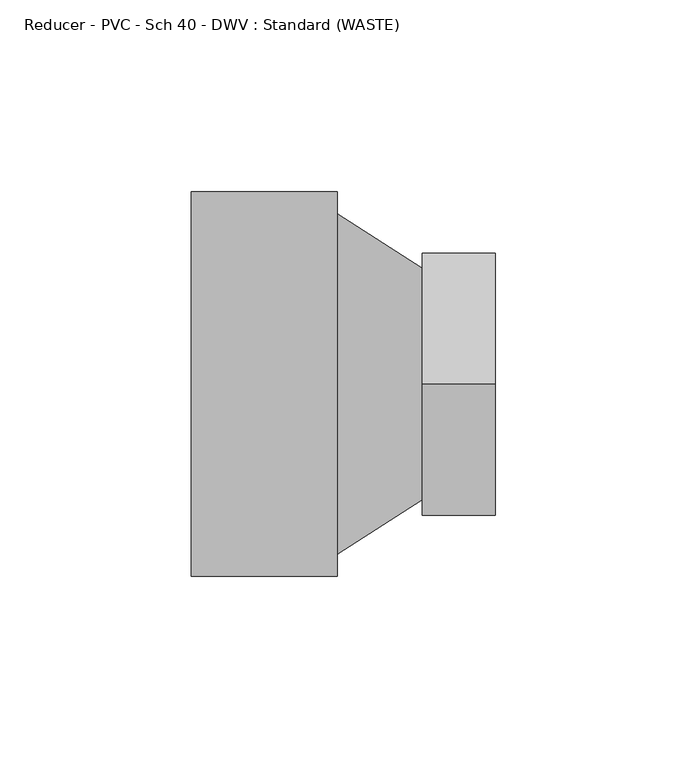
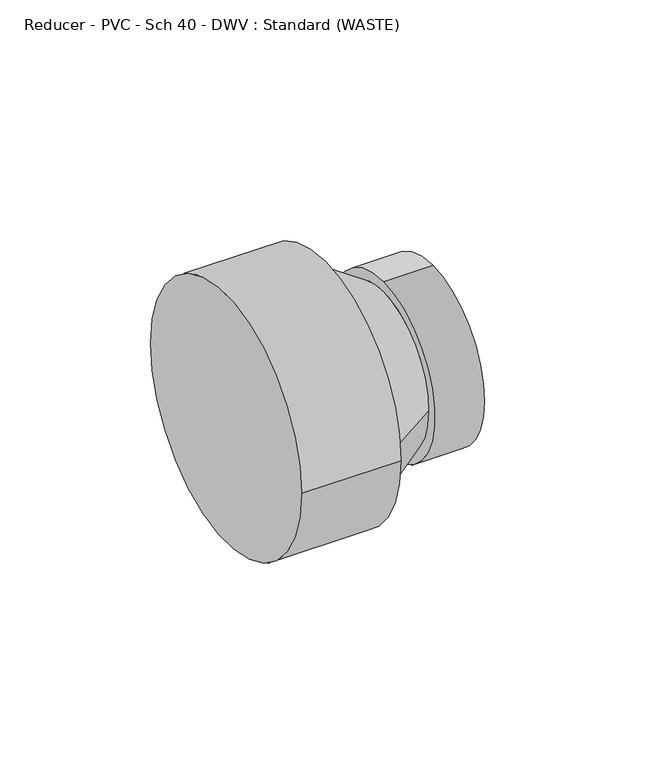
"""IFC4 building model written with IfcOpenShell, lengths in millimetres: pipe fitting geometry, Reducer - PVC - Sch 40 - DWV : Standard (WASTE)."""

from ifc_helpers import new_model, si_unit, frame, origin, place, context, project, spatial, polyline, circle_curve, source, transform, mapped, element, save
from ifc_brep_helpers import plane_surface, cylinder_surface, revolved_surface, advanced_brep


def reducer_pvc_sch_40_dwv_standard_waste_f6fd5085(model_context):
    return source(origin(), model_context, "Body", "AdvancedBrep", [
        advanced_brep(
        [(0.0, -50.2666, 0.0), (0.0, 50.2666, 0.0), (38.1, -50.2666, 0.0), (38.1, 50.2666, 0.0), (38.1, 44.45, 0.0), (38.1, -44.45, 0.0), (60.325, 30.1625, 0.0), (60.325, -30.1625, 0.0), (60.325, 0.0, 34.3154), (60.325, 0.0, -34.3154), (79.375, 0.0, 34.3154), (79.375, 0.0, -34.3154)],
        [
            (0, 1, circle_curve(frame((0.0, 0.0, 0.0), z_axis=(-1.0, 0.0, 0.0), x_axis=(0.0, 1.0, 0.0)), 50.2666)),
            (1, 0, circle_curve(frame((0.0, 0.0, 0.0), z_axis=(-1.0, 0.0, 0.0), x_axis=(0.0, 1.0, 0.0)), 50.2666)),
            (2, 3, circle_curve(frame((38.1, 0.0, 0.0), z_axis=(1.0, 0.0, 0.0), x_axis=(0.0, 1.0, 0.0)), 50.2666)),
            (3, 2, circle_curve(frame((38.1, 0.0, 0.0), z_axis=(1.0, 0.0, 0.0), x_axis=(0.0, 1.0, 0.0)), 50.2666)),
            (4, 5, circle_curve(frame((38.1, 0.0, 0.0), z_axis=(-1.0, 0.0, 0.0), x_axis=(0.0, -1.0, 0.0)), 44.45)),
            (5, 4, circle_curve(frame((38.1, 0.0, 0.0), z_axis=(-1.0, 0.0, 0.0), x_axis=(0.0, 1.0, 0.0)), 44.45)),
            (0, 2),
            (3, 1),
            (4, 6),
            (6, 7, circle_curve(frame((60.325, 0.0, 0.0), z_axis=(-1.0, 0.0, 0.0), x_axis=(0.0, -1.0, 0.0)), 30.1625)),
            (7, 5),
            (7, 6, circle_curve(frame((60.325, 0.0, 0.0), z_axis=(-1.0, 0.0, 0.0), x_axis=(0.0, 1.0, 0.0)), 30.1625)),
            (8, 9, circle_curve(frame((60.325, 0.0, 0.0), z_axis=(-1.0, 0.0, 0.0), x_axis=(0.0, 0.0, -1.0)), 34.3154)),
            (9, 8, circle_curve(frame((60.325, 0.0, 0.0), z_axis=(-1.0, 0.0, 0.0), x_axis=(0.0, 0.0, -1.0)), 34.3154)),
            (10, 11, circle_curve(frame((79.375, 0.0, 0.0), z_axis=(1.0, 0.0, 0.0), x_axis=(0.0, 0.0, -1.0)), 34.3154)),
            (11, 10, circle_curve(frame((79.375, 0.0, 0.0), z_axis=(1.0, 0.0, 0.0), x_axis=(0.0, 0.0, -1.0)), 34.3154)),
            (8, 10),
            (11, 9),
        ],
        [
            plane_surface(frame((0.0, 0.0, 0.0), z_axis=(-1.0, 0.0, 0.0), x_axis=(0.0, 0.0, 1.0))),
            plane_surface(frame((38.1, 0.0, 0.0), z_axis=(1.0, 0.0, 0.0), x_axis=(0.0, 0.0, 1.0))),
            cylinder_surface(frame((0.0, 0.0, 0.0), z_axis=(-1.0, 0.0, 0.0), x_axis=(0.0, 1.0, 0.0)), 50.2666),
            revolved_surface(polyline([(60.32500000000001, 30.16249999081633, 0.0), (38.10000000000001, 44.45, 0.0)]), (107.2444444, 0.0, 0.0), (-1.0, 0.0, 0.0)),
            plane_surface(frame((60.325, 0.0, 0.0), z_axis=(-1.0, 0.0, 0.0), x_axis=(0.0, 1.0, 0.0))),
            plane_surface(frame((79.375, 0.0, 0.0), z_axis=(1.0, 0.0, 0.0), x_axis=(0.0, 1.0, 0.0))),
            cylinder_surface(frame((60.325, 0.0, 0.0), z_axis=(-1.0, 0.0, 0.0), x_axis=(0.0, 0.0, -1.0)), 34.3154),
        ],
        [
            (0, [[1, 2]]),
            (1, [[3, 4], [5, 6]]),
            (2, [[-1, 7, -4, 8]]),
            (2, [[-2, -8, -3, -7]]),
            (3, [[9, 10, 11, -5]]),
            (3, [[-9, -6, -11, 12]]),
            (4, [[13, 14], [-10, -12]]),
            (5, [[15, 16]]),
            (6, [[-13, 17, -16, 18]]),
            (6, [[-14, -18, -15, -17]]),
        ],
    ),
        advanced_brep(
        [(0.0, -50.2666, 0.0), (0.0, 50.2666, 0.0), (38.1, -50.2666, 0.0), (38.1, 50.2666, 0.0), (38.1, 44.45, 0.0), (38.1, -44.45, 0.0), (60.325, 30.1625, 0.0), (60.325, -30.1625, 0.0), (60.325, 0.0, 34.3154), (60.325, 0.0, -34.3154), (79.375, 0.0, 34.3154), (79.375, 0.0, -34.3154)],
        [
            (0, 1, circle_curve(frame((0.0, 0.0, 0.0), z_axis=(-1.0, 0.0, 0.0), x_axis=(0.0, 1.0, 0.0)), 50.2666)),
            (1, 0, circle_curve(frame((0.0, 0.0, 0.0), z_axis=(-1.0, 0.0, 0.0), x_axis=(0.0, 1.0, 0.0)), 50.2666)),
            (2, 3, circle_curve(frame((38.1, 0.0, 0.0), z_axis=(1.0, 0.0, 0.0), x_axis=(0.0, 1.0, 0.0)), 50.2666)),
            (3, 2, circle_curve(frame((38.1, 0.0, 0.0), z_axis=(1.0, 0.0, 0.0), x_axis=(0.0, 1.0, 0.0)), 50.2666)),
            (4, 5, circle_curve(frame((38.1, 0.0, 0.0), z_axis=(-1.0, 0.0, 0.0), x_axis=(0.0, -1.0, 0.0)), 44.45)),
            (5, 4, circle_curve(frame((38.1, 0.0, 0.0), z_axis=(-1.0, 0.0, 0.0), x_axis=(0.0, 1.0, 0.0)), 44.45)),
            (0, 2),
            (3, 1),
            (4, 6),
            (6, 7, circle_curve(frame((60.325, 0.0, 0.0), z_axis=(-1.0, 0.0, 0.0), x_axis=(0.0, -1.0, 0.0)), 30.1625)),
            (7, 5),
            (7, 6, circle_curve(frame((60.325, 0.0, 0.0), z_axis=(-1.0, 0.0, 0.0), x_axis=(0.0, 1.0, 0.0)), 30.1625)),
            (8, 9, circle_curve(frame((60.325, 0.0, 0.0), z_axis=(-1.0, 0.0, 0.0), x_axis=(0.0, 0.0, -1.0)), 34.3154)),
            (9, 8, circle_curve(frame((60.325, 0.0, 0.0), z_axis=(-1.0, 0.0, 0.0), x_axis=(0.0, 0.0, -1.0)), 34.3154)),
            (10, 11, circle_curve(frame((79.375, 0.0, 0.0), z_axis=(1.0, 0.0, 0.0), x_axis=(0.0, 0.0, -1.0)), 34.3154)),
            (11, 10, circle_curve(frame((79.375, 0.0, 0.0), z_axis=(1.0, 0.0, 0.0), x_axis=(0.0, 0.0, -1.0)), 34.3154)),
            (8, 10),
            (11, 9),
        ],
        [
            plane_surface(frame((0.0, 0.0, 0.0), z_axis=(-1.0, 0.0, 0.0), x_axis=(0.0, 0.0, 1.0))),
            plane_surface(frame((38.1, 0.0, 0.0), z_axis=(1.0, 0.0, 0.0), x_axis=(0.0, 0.0, 1.0))),
            cylinder_surface(frame((0.0, 0.0, 0.0), z_axis=(-1.0, 0.0, 0.0), x_axis=(0.0, 1.0, 0.0)), 50.2666),
            revolved_surface(polyline([(60.32500000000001, 30.16249999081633, 0.0), (38.10000000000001, 44.45, 0.0)]), (107.2444444, 0.0, 0.0), (-1.0, 0.0, 0.0)),
            plane_surface(frame((60.325, 0.0, 0.0), z_axis=(-1.0, 0.0, 0.0), x_axis=(0.0, 1.0, 0.0))),
            plane_surface(frame((79.375, 0.0, 0.0), z_axis=(1.0, 0.0, 0.0), x_axis=(0.0, 1.0, 0.0))),
            cylinder_surface(frame((60.325, 0.0, 0.0), z_axis=(-1.0, 0.0, 0.0), x_axis=(0.0, 0.0, -1.0)), 34.3154),
        ],
        [
            (0, [[1, 2]]),
            (1, [[3, 4], [5, 6]]),
            (2, [[-1, 7, -4, 8]]),
            (2, [[-2, -8, -3, -7]]),
            (3, [[9, 10, 11, -5]]),
            (3, [[-9, -6, -11, 12]]),
            (4, [[13, 14], [-10, -12]]),
            (5, [[15, 16]]),
            (6, [[-13, 17, -16, 18]]),
            (6, [[-14, -18, -15, -17]]),
        ],
    ),
    ])


if __name__ == "__main__":
    model = new_model("IFC4")
    model_context = context("Model", 3, world=origin())
    ifc_project = project(units=[si_unit("LENGTHUNIT", "METRE", prefix="MILLI")], contexts=[model_context])
    site = spatial("IfcSite", under=ifc_project)
    building = spatial("IfcBuilding", under=site)
    placement = place(None, origin())
    reducer_pvc_sch_40_dwv_standard_waste_shape = reducer_pvc_sch_40_dwv_standard_waste_f6fd5085(model_context)
    element("IfcPipeFitting", 1, ObjectType="Reducer - PVC - Sch 40 - DWV : Standard (WASTE)", at=placement, inside=building, context=model_context, shape_type="MappedRepresentation", body=[
        mapped(reducer_pvc_sch_40_dwv_standard_waste_shape, transform((0.0, 0.0, 0.0), x_axis=(1.0, 0.0, 0.0), y_axis=(0.0, 1.0, 0.0), z_axis=(0.0, 0.0, 1.0))),
    ])
    save(model, "model.ifc")
